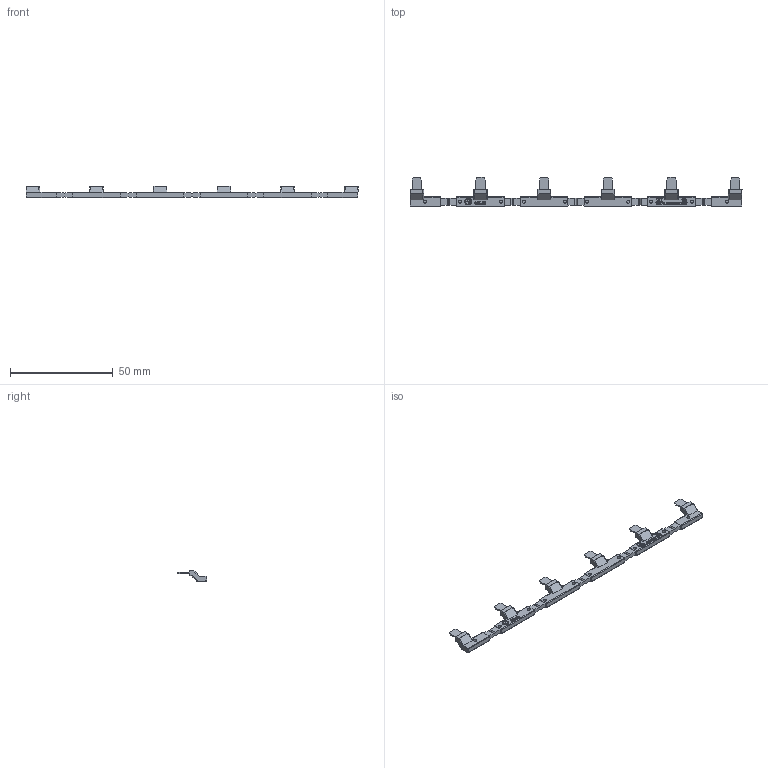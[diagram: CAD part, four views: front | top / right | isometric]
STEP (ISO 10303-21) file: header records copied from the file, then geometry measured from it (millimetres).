
FILE_DESCRIPTION(('STEP AP214'),'2;1');
FILE_NAME('09456.stp','2011-10-03T10:09:20',(''),(''),'2007.1.106','THINKDESIGN','');
FILE_SCHEMA(('AUTOMOTIVE_DESIGN'));
Products named in the file (1): None
Bounding box: 161.6 x 14.25 x 5.6 mm (x, y, z)
Surface area: 3868 mm2 (no closed solid volume)
Topology: 0 solids, 0 shells, 1148 faces, 5981 edges, 5980 vertices
Faces by surface type: plane 708, bspline 309, cylinder 131
Full cylindrical faces by diameter (mm): 1.5 x10, 3.3 x2
Entity records: 61942 total; most frequent: CARTESIAN_POINT 20086, DIRECTION 6446, COMPOSITE_CURVE_SEGMENT 5980, TRIMMED_CURVE 4511, VECTOR 4254, LINE 4254, OUTER_BOUNDARY_CURVE 1148, CURVE_BOUNDED_SURFACE 1148
